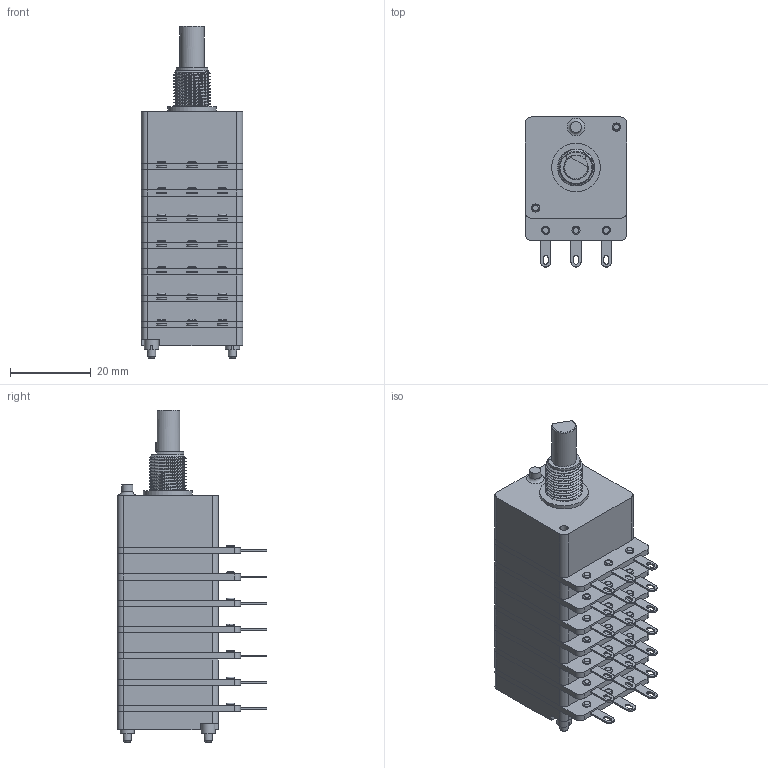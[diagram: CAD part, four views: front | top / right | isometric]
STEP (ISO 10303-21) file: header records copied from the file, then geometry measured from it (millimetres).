
FILE_DESCRIPTION(('FreeCAD Model'),'2;1');
FILE_NAME('Open CASCADE Shape Model','2024-02-27T10:42:35',(''),(''), 'Open CASCADE STEP processor 7.6','FreeCAD','Unknown');
FILE_SCHEMA(('AUTOMOTIVE_DESIGN { 1 0 10303 214 1 1 1 1 }'));
Length unit declared in the file: millimetre
Products named in the file (1): 7cp25xx-f20
Bounding box: 25 x 37 x 82 mm (x, y, z)
Volume: 38214.2 mm3; surface area: 12320.2 mm2
Topology: 1 solids, 36 shells, 688 faces, 1497 edges, 941 vertices
Faces by surface type: plane 357, cylinder 263, bspline 38, torus 24, cone 6
Full cylindrical faces by diameter (mm): 1.9 x2, 2 x53, 2.2 x26, 2.8 x1, 3.5 x2, 4.5 x7, 5.4 x1, 6 x1, 6.05 x1, 8 x1, 9.09 x11, 12 x1
Entity records: 48941 total; most frequent: CARTESIAN_POINT 17114, DIRECTION 5385, ORIENTED_EDGE 2992, PCURVE 2992, DEFINITIONAL_REPRESENTATION 2992, LINE 2696, VECTOR 2696, EDGE_CURVE 1496
